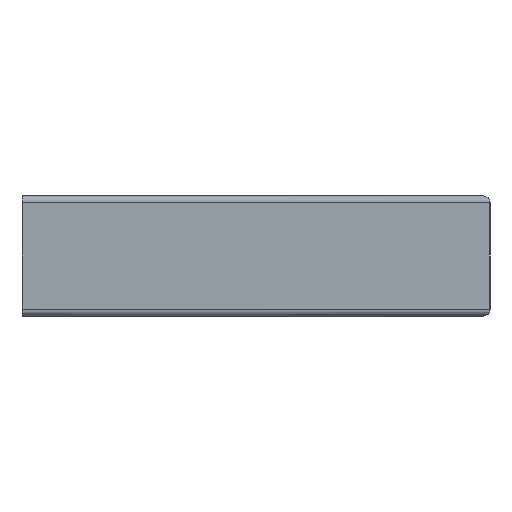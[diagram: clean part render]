
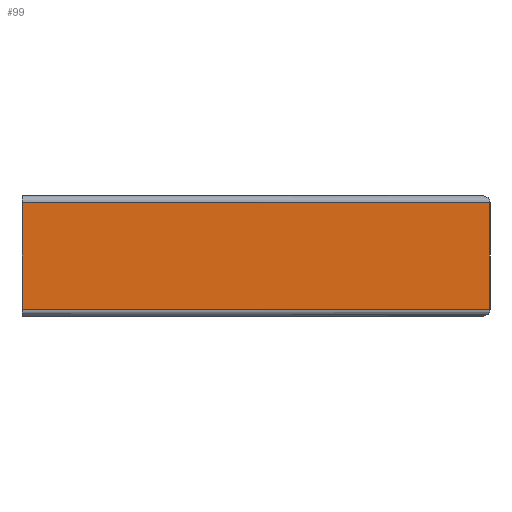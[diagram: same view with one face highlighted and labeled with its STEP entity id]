
A CAD part, left-side view. The second image highlights one B-rep face of the part: STEP entity #99.
In plain terms, the highlighted planar face has unit normal (-1, 0, 0).
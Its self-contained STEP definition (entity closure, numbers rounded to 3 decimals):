
#99 = ADVANCED_FACE( '', ( #151 ), #152, .T. );
#151 = FACE_OUTER_BOUND( '', #205, .T. );
#152 = PLANE( '', #206 );
#205 = EDGE_LOOP( '', ( #392, #393, #394, #395 ) );
#206 = AXIS2_PLACEMENT_3D( '', #396, #397, #398 );
#392 = ORIENTED_EDGE( '', *, *, #470, .F. );
#393 = ORIENTED_EDGE( '', *, *, #473, .F. );
#394 = ORIENTED_EDGE( '', *, *, #471, .T. );
#395 = ORIENTED_EDGE( '', *, *, #433, .F. );
#396 = CARTESIAN_POINT( '', ( -13.999, 0., -4. ) );
#397 = DIRECTION( '', ( -1., 0., 0. ) );
#398 = DIRECTION( '', ( 0., 0., -1. ) );
#433 = EDGE_CURVE( '', #513, #493, #515, .T. );
#470 = EDGE_CURVE( '', #569, #513, #571, .T. );
#471 = EDGE_CURVE( '', #572, #493, #573, .T. );
#473 = EDGE_CURVE( '', #572, #569, #575, .T. );
#493 = VERTEX_POINT( '', #599 );
#513 = VERTEX_POINT( '', #629 );
#515 = LINE( '', #632, #633 );
#569 = VERTEX_POINT( '', #740 );
#571 = LINE( '', #742, #743 );
#572 = VERTEX_POINT( '', #744 );
#573 = LINE( '', #745, #746 );
#575 = LINE( '', #748, #749 );
#599 = CARTESIAN_POINT( '', ( -13.999, -35., -4. ) );
#629 = CARTESIAN_POINT( '', ( -13.999, -35., 4. ) );
#632 = CARTESIAN_POINT( '', ( -13.999, -35., 4.25 ) );
#633 = VECTOR( '', #783, 1. );
#740 = CARTESIAN_POINT( '', ( -13.999, 0., 4. ) );
#742 = CARTESIAN_POINT( '', ( -13.999, 0., 4. ) );
#743 = VECTOR( '', #846, 1. );
#744 = CARTESIAN_POINT( '', ( -13.999, 0., -4. ) );
#745 = CARTESIAN_POINT( '', ( -13.999, 0., -4. ) );
#746 = VECTOR( '', #847, 1. );
#748 = CARTESIAN_POINT( '', ( -13.999, 0., -4. ) );
#749 = VECTOR( '', #851, 1. );
#783 = DIRECTION( '', ( 0., 0., -1. ) );
#846 = DIRECTION( '', ( 0., -1., 0. ) );
#847 = DIRECTION( '', ( 0., -1., 0. ) );
#851 = DIRECTION( '', ( 0., 0., 1. ) );
